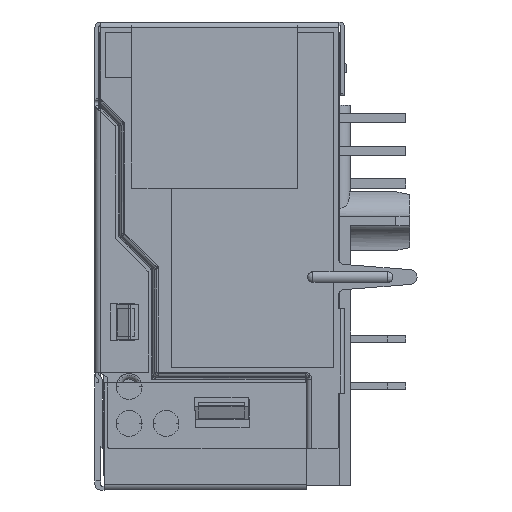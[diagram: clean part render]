
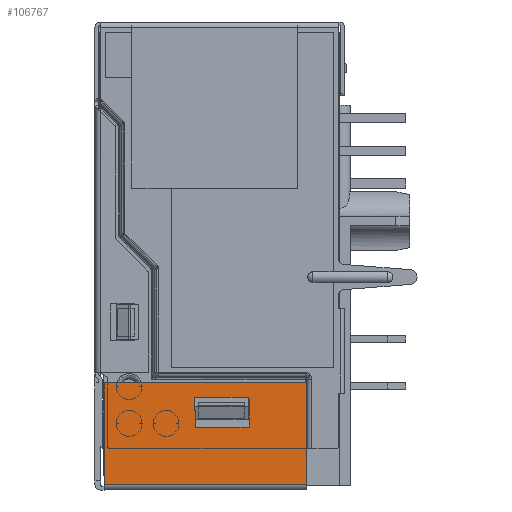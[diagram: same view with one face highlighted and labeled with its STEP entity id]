
A CAD part, left-side view. The second image highlights one B-rep face of the part: STEP entity #106767.
In plain terms, the highlighted planar face has unit normal (-1, 0, 0).
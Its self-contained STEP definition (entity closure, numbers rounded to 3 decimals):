
#25940=DIRECTION('',(0.,0.,1.));
#25941=VECTOR('',#25940,5.5);
#25942=CARTESIAN_POINT('',(-29.565,-4.75,-12.375));
#25943=LINE('',#25942,#25941);
#30209=DIRECTION('',(0.,0.,-1.));
#30210=VECTOR('',#30209,5.5);
#30211=CARTESIAN_POINT('',(-29.565,6.2,-6.875));
#30212=LINE('',#30211,#30210);
#30230=DIRECTION('',(0.,-1.,0.));
#30231=VECTOR('',#30230,10.95);
#30232=CARTESIAN_POINT('',(-29.565,6.2,-6.875));
#30233=LINE('',#30232,#30231);
#30234=DIRECTION('',(0.,-1.,0.));
#30235=VECTOR('',#30234,0.05);
#30236=CARTESIAN_POINT('',(-29.565,1.3,-8.379));
#30237=LINE('',#30236,#30235);
#30238=DIRECTION('',(0.,0.,1.));
#30239=VECTOR('',#30238,0.107);
#30240=CARTESIAN_POINT('',(-29.565,-1.6,-7.775));
#30241=LINE('',#30240,#30239);
#30242=DIRECTION('',(0.,1.,0.));
#30243=VECTOR('',#30242,2.9);
#30244=CARTESIAN_POINT('',(-29.565,-1.6,-7.668));
#30245=LINE('',#30244,#30243);
#30246=DIRECTION('',(0.,-1.,0.));
#30247=VECTOR('',#30246,10.95);
#30248=CARTESIAN_POINT('',(-29.565,6.2,-12.375));
#30249=LINE('',#30248,#30247);
#30254=DIRECTION('',(0.,0.,1.));
#30255=VECTOR('',#30254,0.712);
#30256=CARTESIAN_POINT('',(-29.565,1.3,-8.379));
#30257=LINE('',#30256,#30255);
#30286=DIRECTION('',(0.,-1.,0.));
#30287=VECTOR('',#30286,0.05);
#30288=CARTESIAN_POINT('',(-29.565,-1.6,-7.775));
#30289=LINE('',#30288,#30287);
#30306=DIRECTION('',(0.,0.,1.));
#30307=VECTOR('',#30306,0.896);
#30308=CARTESIAN_POINT('',(-29.565,1.25,-9.275));
#30309=LINE('',#30308,#30307);
#30326=DIRECTION('',(0.,1.,0.));
#30327=VECTOR('',#30326,2.9);
#30328=CARTESIAN_POINT('',(-29.565,-1.65,-9.275));
#30329=LINE('',#30328,#30327);
#30334=DIRECTION('',(0.,0.,-1.));
#30335=VECTOR('',#30334,1.5);
#30336=CARTESIAN_POINT('',(-29.565,-1.65,-7.775));
#30337=LINE('',#30336,#30335);
#54197=CARTESIAN_POINT('',(-29.565,-4.75,-12.375));
#54198=VERTEX_POINT('',#54197);
#54199=CARTESIAN_POINT('',(-29.565,-4.75,-6.875));
#54200=VERTEX_POINT('',#54199);
#65384=CARTESIAN_POINT('',(-29.565,6.2,-6.875));
#65385=VERTEX_POINT('',#65384);
#65386=CARTESIAN_POINT('',(-29.565,6.2,-12.375));
#65387=VERTEX_POINT('',#65386);
#65789=CARTESIAN_POINT('',(-29.565,1.3,-8.379));
#65790=CARTESIAN_POINT('',(-29.565,1.3,-7.668));
#65791=VERTEX_POINT('',#65789);
#65792=VERTEX_POINT('',#65790);
#65793=CARTESIAN_POINT('',(-29.565,1.25,-8.379));
#65794=VERTEX_POINT('',#65793);
#65795=CARTESIAN_POINT('',(-29.565,1.25,-9.275));
#65796=VERTEX_POINT('',#65795);
#65797=CARTESIAN_POINT('',(-29.565,-1.65,-9.275));
#65798=VERTEX_POINT('',#65797);
#65799=CARTESIAN_POINT('',(-29.565,-1.65,-7.775));
#65800=VERTEX_POINT('',#65799);
#65801=CARTESIAN_POINT('',(-29.565,-1.6,-7.775));
#65802=VERTEX_POINT('',#65801);
#65803=CARTESIAN_POINT('',(-29.565,-1.6,-7.668));
#65804=VERTEX_POINT('',#65803);
#106737=CARTESIAN_POINT('',(-29.565,0.775,-9.625));
#106738=DIRECTION('',(1.,0.,0.));
#106739=DIRECTION('',(0.,-1.,0.));
#106740=AXIS2_PLACEMENT_3D('',#106737,#106738,#106739);
#106741=PLANE('',#106740);
#106742=ORIENTED_EDGE('',*,*,#106538,.T.);
#106743=ORIENTED_EDGE('',*,*,#101031,.F.);
#106745=ORIENTED_EDGE('',*,*,#106744,.F.);
#106746=ORIENTED_EDGE('',*,*,#106727,.F.);
#106747=EDGE_LOOP('',(#106742,#106743,#106745,#106746));
#106748=FACE_OUTER_BOUND('',#106747,.F.);
#106750=ORIENTED_EDGE('',*,*,#106749,.F.);
#106752=ORIENTED_EDGE('',*,*,#106751,.T.);
#106754=ORIENTED_EDGE('',*,*,#106753,.F.);
#106756=ORIENTED_EDGE('',*,*,#106755,.F.);
#106758=ORIENTED_EDGE('',*,*,#106757,.F.);
#106760=ORIENTED_EDGE('',*,*,#106759,.F.);
#106762=ORIENTED_EDGE('',*,*,#106761,.T.);
#106764=ORIENTED_EDGE('',*,*,#106763,.T.);
#106765=EDGE_LOOP('',(#106750,#106752,#106754,#106756,#106758,#106760,#106762,
#106764));
#106766=FACE_BOUND('',#106765,.F.);
#106767=ADVANCED_FACE('',(#106748,#106766),#106741,.F.);
#101031=EDGE_CURVE('',#54198,#54200,#25943,.T.);
#106538=EDGE_CURVE('',#65385,#54200,#30233,.T.);
#106727=EDGE_CURVE('',#65385,#65387,#30212,.T.);
#106744=EDGE_CURVE('',#65387,#54198,#30249,.T.);
#106749=EDGE_CURVE('',#65791,#65792,#30257,.T.);
#106751=EDGE_CURVE('',#65791,#65794,#30237,.T.);
#106753=EDGE_CURVE('',#65796,#65794,#30309,.T.);
#106755=EDGE_CURVE('',#65798,#65796,#30329,.T.);
#106757=EDGE_CURVE('',#65800,#65798,#30337,.T.);
#106759=EDGE_CURVE('',#65802,#65800,#30289,.T.);
#106761=EDGE_CURVE('',#65802,#65804,#30241,.T.);
#106763=EDGE_CURVE('',#65804,#65792,#30245,.T.);
